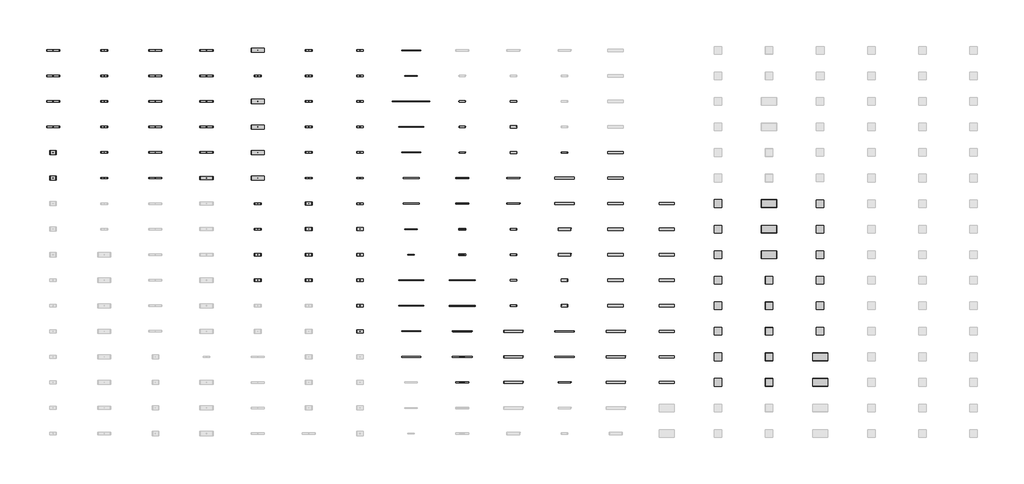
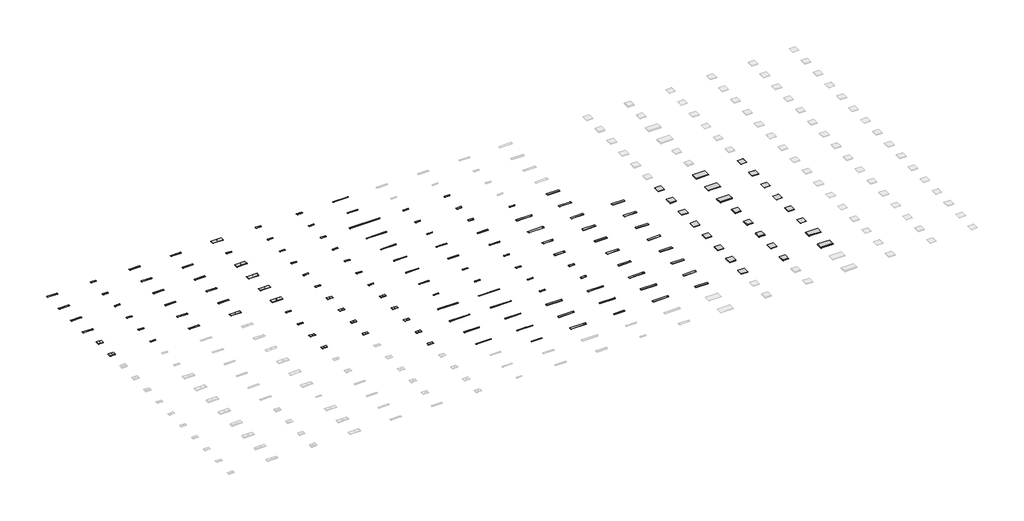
# One storey, part 3 of 7: 145 light fixtures.
"""IFC4 building model written with IfcOpenShell, lengths in millimetres."""

from ifc_helpers import new_model, si_unit, origin, place, context, project, spatial, transform, mapped, element, save
from components import light_fixture_46fbf182, light_fixture_1d3cdff3, light_fixture_ffda42ea, light_fixture_92eabb3a, light_fixture_b87eb1c6, light_fixture_3a14fd99, light_fixture_25df60ce, light_fixture_055937f4, light_fixture_6dc9417a, light_fixture_058cbd19, light_fixture_e95786d1, light_fixture_6ae0b5f7, light_fixture_6470af7a, light_fixture_d8a4bb4c, light_fixture_e2a95042, light_fixture_e242d498, light_fixture_4d4a466d, light_fixture_3a991945, light_fixture_01780e7a, light_fixture_fd2b8f3f, light_fixture_c53e545b, light_fixture_ddc3e724, light_fixture_dffcc7fd, light_fixture_4871c609, light_fixture_8640c246, light_fixture_0b688929, light_fixture_70e44551, light_fixture_14155fe5, light_fixture_35556cd1, light_fixture_69443bf1, light_fixture_fca84b41, light_fixture_4e222f7b, light_fixture_a868d494, light_fixture_98d0d098, light_fixture_7213bc0d, light_fixture_24b21b9c

model = new_model("IFC4")

# Units and contexts
model_context = context("Model", 3, world=origin())
ifc_project = project(units=[si_unit("LENGTHUNIT", "METRE", prefix="MILLI")], contexts=[model_context])

# Site, building, storey
site = spatial("IfcSite", under=ifc_project)
building = spatial("IfcBuilding", under=site)
storey = spatial("IfcBuildingStorey", under=building, Name="Уровень 1", Elevation=0.0)

# Light fixtures
placement = place(None, origin())
light_fixture_shape = light_fixture_46fbf182(model_context)
element("IfcLightFixture", 1, ObjectType="GENILED_Светильник светодиодный_Line Alum Standart : Line Alum Standart 1480x50x50 30Вт Опал", at=placement, inside=storey, context=model_context, shape_type="MappedRepresentation", body=[
    mapped(light_fixture_shape, transform((28000.0, 34000.0, 0.0), x_axis=(1.0, 0.0, 0.0), y_axis=(0.0, 1.0, 0.0), z_axis=(0.0, 0.0, 1.0))),
])
element("IfcLightFixture", 2, ObjectType="GENILED_Светильник светодиодный_Line Alum Standart : Line Alum Standart 1480x50x50 60Вт Опал", at=placement, inside=storey, context=model_context, shape_type="MappedRepresentation", body=[
    mapped(light_fixture_shape, transform((28000.0, 36000.0, 0.0), x_axis=(1.0, 0.0, 0.0), y_axis=(0.0, 1.0, 0.0), z_axis=(0.0, 0.0, 1.0))),
])
light_fixture_2_shape = light_fixture_1d3cdff3(model_context)
element("IfcLightFixture", 3, ObjectType="GENILED_Светильник светодиодный_Line Alum Standart : Line Alum Standart 1960x50x50 40Вт Опал", at=placement, inside=storey, context=model_context, shape_type="MappedRepresentation", body=[
    mapped(light_fixture_2_shape, transform((28000.0, 38000.0, 0.0), x_axis=(1.0, 0.0, 0.0), y_axis=(0.0, 1.0, 0.0), z_axis=(0.0, 0.0, 1.0))),
])
element("IfcLightFixture", 4, ObjectType="GENILED_Светильник светодиодный_Line Alum Standart : Line Alum Standart 1960x50x50 80Вт Опал", at=placement, inside=storey, context=model_context, shape_type="MappedRepresentation", body=[
    mapped(light_fixture_2_shape, transform((28000.0, 40000.0, 0.0), x_axis=(1.0, 0.0, 0.0), y_axis=(0.0, 1.0, 0.0), z_axis=(0.0, 0.0, 1.0))),
])
light_fixture_3_shape = light_fixture_ffda42ea(model_context)
element("IfcLightFixture", 5, ObjectType="GENILED_Светильник светодиодный_Line Alum Super : Line Alum Super 500x50x50 10Вт 90Ra Опал", at=placement, inside=storey, context=model_context, shape_type="MappedRepresentation", body=[
    mapped(light_fixture_3_shape, transform((28000.0, 42000.0, 0.0), x_axis=(1.0, 0.0, 0.0), y_axis=(0.0, 1.0, 0.0), z_axis=(0.0, 0.0, 1.0))),
])
light_fixture_4_shape = light_fixture_92eabb3a(model_context)
element("IfcLightFixture", 6, ObjectType="GENILED_Светильник светодиодный_Line Alum Super : Line Alum Super 980x50x50 20Вт 90Ra Опал", at=placement, inside=storey, context=model_context, shape_type="MappedRepresentation", body=[
    mapped(light_fixture_4_shape, transform((28000.0, 44000.0, 0.0), x_axis=(1.0, 0.0, 0.0), y_axis=(0.0, 1.0, 0.0), z_axis=(0.0, 0.0, 1.0))),
])
light_fixture_5_shape = light_fixture_b87eb1c6(model_context)
element("IfcLightFixture", 7, ObjectType="GENILED_Светильник светодиодный_Line Alum Super : Line Alum Super 1250x50x50 25Вт 90Ra Опал Белый", at=placement, inside=storey, context=model_context, shape_type="MappedRepresentation", body=[
    mapped(light_fixture_5_shape, transform((28000.0, 46000.0, 0.0), x_axis=(1.0, 0.0, 0.0), y_axis=(0.0, 1.0, 0.0), z_axis=(0.0, 0.0, 1.0))),
])
element("IfcLightFixture", 8, ObjectType="GENILED_Светильник светодиодный_Line Alum Super : Line Alum Super 1250x50x50 25Вт 90Ra Опал Черный", at=placement, inside=storey, context=model_context, shape_type="MappedRepresentation", body=[
    mapped(light_fixture_5_shape, transform((28000.0, 48000.0, 0.0), x_axis=(1.0, 0.0, 0.0), y_axis=(0.0, 1.0, 0.0), z_axis=(0.0, 0.0, 1.0))),
])
element("IfcLightFixture", 9, ObjectType="GENILED_Светильник светодиодный_Line Alum Super : Line Alum Super 1480x50x50 30Вт 90Ra Опал", at=placement, inside=storey, context=model_context, shape_type="MappedRepresentation", body=[
    mapped(light_fixture_shape, transform((28000.0, 50000.0, 0.0), x_axis=(1.0, 0.0, 0.0), y_axis=(0.0, 1.0, 0.0), z_axis=(0.0, 0.0, 1.0))),
])
element("IfcLightFixture", 10, ObjectType="GENILED_Светильник светодиодный_Line Alum Super : Line Alum Super 1960x50x50 40Вт 90Ra Опал", at=placement, inside=storey, context=model_context, shape_type="MappedRepresentation", body=[
    mapped(light_fixture_2_shape, transform((28000.0, 52000.0, 0.0), x_axis=(1.0, 0.0, 0.0), y_axis=(0.0, 1.0, 0.0), z_axis=(0.0, 0.0, 1.0))),
])
light_fixture_6_shape = light_fixture_3a14fd99(model_context)
element("IfcLightFixture", 11, ObjectType="GENILED_Светильник светодиодный_Line Alum Super : Line Alum Super 2940x50x50 60Вт 90Ra Опал", at=placement, inside=storey, context=model_context, shape_type="MappedRepresentation", body=[
    mapped(light_fixture_6_shape, transform((28000.0, 54000.0, 0.0), x_axis=(1.0, 0.0, 0.0), y_axis=(0.0, 1.0, 0.0), z_axis=(0.0, 0.0, 1.0))),
])
light_fixture_7_shape = light_fixture_25df60ce(model_context)
element("IfcLightFixture", 12, ObjectType="GENILED_Светильник светодиодный_Line Basic : Line Basic 980x40x50 20Вт Опал", at=placement, inside=storey, context=model_context, shape_type="MappedRepresentation", body=[
    mapped(light_fixture_7_shape, transform((28000.0, 56000.0, 0.0), x_axis=(1.0, 0.0, 0.0), y_axis=(0.0, 1.0, 0.0), z_axis=(0.0, 0.0, 1.0))),
])
light_fixture_8_shape = light_fixture_055937f4(model_context)
element("IfcLightFixture", 13, ObjectType="GENILED_Светильник светодиодный_Line Basic : Line Basic 1472x40x50 30Вт Опал", at=placement, inside=storey, context=model_context, shape_type="MappedRepresentation", body=[
    mapped(light_fixture_8_shape, transform((28000.0, 58000.0, 0.0), x_axis=(1.0, 0.0, 0.0), y_axis=(0.0, 1.0, 0.0), z_axis=(0.0, 0.0, 1.0))),
])
light_fixture_9_shape = light_fixture_6dc9417a(model_context)
element("IfcLightFixture", 14, ObjectType="GENILED_Светильник светодиодный_Retail Basic : Retail Basic 1026x66x25 40Вт Опал", at=placement, inside=storey, context=model_context, shape_type="MappedRepresentation", body=[
    mapped(light_fixture_9_shape, transform((32000.0, 32000.0, 0.0), x_axis=(1.0, 0.0, 0.0), y_axis=(0.0, 1.0, 0.0), z_axis=(0.0, 0.0, 1.0))),
])
light_fixture_10_shape = light_fixture_058cbd19(model_context)
element("IfcLightFixture", 15, ObjectType="GENILED_Светильник светодиодный_Retail Basic : Retail Basic 1516x66x25 30Вт Опал", at=placement, inside=storey, context=model_context, shape_type="MappedRepresentation", body=[
    mapped(light_fixture_10_shape, transform((32000.0, 34000.0, 0.0), x_axis=(1.0, 0.0, 0.0), y_axis=(0.0, 1.0, 0.0), z_axis=(0.0, 0.0, 1.0))),
])
element("IfcLightFixture", 16, ObjectType="GENILED_Светильник светодиодный_Retail Basic : Retail Basic 1516x66x25 60Вт Опал", at=placement, inside=storey, context=model_context, shape_type="MappedRepresentation", body=[
    mapped(light_fixture_10_shape, transform((32000.0, 36000.0, 0.0), x_axis=(1.0, 0.0, 0.0), y_axis=(0.0, 1.0, 0.0), z_axis=(0.0, 0.0, 1.0))),
])
light_fixture_11_shape = light_fixture_e95786d1(model_context)
element("IfcLightFixture", 17, ObjectType="GENILED_Светильник светодиодный_Retail Basic : Retail Basic 2006x66x25 40Вт Опал", at=placement, inside=storey, context=model_context, shape_type="MappedRepresentation", body=[
    mapped(light_fixture_11_shape, transform((32000.0, 38000.0, 0.0), x_axis=(1.0, 0.0, 0.0), y_axis=(0.0, 1.0, 0.0), z_axis=(0.0, 0.0, 1.0))),
])
element("IfcLightFixture", 18, ObjectType="GENILED_Светильник светодиодный_Retail Basic : Retail Basic 2006x66x25 80Вт Опал", at=placement, inside=storey, context=model_context, shape_type="MappedRepresentation", body=[
    mapped(light_fixture_11_shape, transform((32000.0, 40000.0, 0.0), x_axis=(1.0, 0.0, 0.0), y_axis=(0.0, 1.0, 0.0), z_axis=(0.0, 0.0, 1.0))),
])
light_fixture_12_shape = light_fixture_6ae0b5f7(model_context)
element("IfcLightFixture", 19, ObjectType="GENILED_Светильник светодиодный_Retail Standart : Retail Standart 535x105x25 20Вт Опал", at=placement, inside=storey, context=model_context, shape_type="MappedRepresentation", body=[
    mapped(light_fixture_12_shape, transform((32000.0, 42000.0, 0.0), x_axis=(1.0, 0.0, 0.0), y_axis=(0.0, 1.0, 0.0), z_axis=(0.0, 0.0, 1.0))),
])
element("IfcLightFixture", 20, ObjectType="GENILED_Светильник светодиодный_Retail Standart : Retail Standart 535x105x25 30Вт Опал", at=placement, inside=storey, context=model_context, shape_type="MappedRepresentation", body=[
    mapped(light_fixture_12_shape, transform((32000.0, 44000.0, 0.0), x_axis=(1.0, 0.0, 0.0), y_axis=(0.0, 1.0, 0.0), z_axis=(0.0, 0.0, 1.0))),
])
light_fixture_13_shape = light_fixture_6470af7a(model_context)
element("IfcLightFixture", 21, ObjectType="GENILED_Светильник светодиодный_Retail Standart : Retail Standart 1034x105x25 40Вт Опал", at=placement, inside=storey, context=model_context, shape_type="MappedRepresentation", body=[
    mapped(light_fixture_13_shape, transform((32000.0, 46000.0, 0.0), x_axis=(1.0, 0.0, 0.0), y_axis=(0.0, 1.0, 0.0), z_axis=(0.0, 0.0, 1.0))),
])
element("IfcLightFixture", 22, ObjectType="GENILED_Светильник светодиодный_Retail Standart : Retail Standart 1034x105x25 60Вт Опал", at=placement, inside=storey, context=model_context, shape_type="MappedRepresentation", body=[
    mapped(light_fixture_13_shape, transform((32000.0, 48000.0, 0.0), x_axis=(1.0, 0.0, 0.0), y_axis=(0.0, 1.0, 0.0), z_axis=(0.0, 0.0, 1.0))),
])
light_fixture_14_shape = light_fixture_d8a4bb4c(model_context)
element("IfcLightFixture", 23, ObjectType="GENILED_Светильник светодиодный_Titan Advanced : Titan Advanced 500x100x25 20Вт IP66 Опал", at=placement, inside=storey, context=model_context, shape_type="MappedRepresentation", body=[
    mapped(light_fixture_14_shape, transform((32000.0, 50000.0, 0.0), x_axis=(1.0, 0.0, 0.0), y_axis=(0.0, 1.0, 0.0), z_axis=(0.0, 0.0, 1.0))),
])
light_fixture_15_shape = light_fixture_e2a95042(model_context)
element("IfcLightFixture", 24, ObjectType="GENILED_Светильник светодиодный_Titan Advanced : Titan Advanced 500x100x30 20Вт IP66 Матовое закаленное стекло", at=placement, inside=storey, context=model_context, shape_type="MappedRepresentation", body=[
    mapped(light_fixture_15_shape, transform((32000.0, 52000.0, 0.0), x_axis=(1.0, 0.0, 0.0), y_axis=(0.0, 1.0, 0.0), z_axis=(0.0, 0.0, 1.0))),
])
element("IfcLightFixture", 25, ObjectType="GENILED_Светильник светодиодный_Titan Advanced : Titan Advanced 500x100x25 30Вт IP66 Опал", at=placement, inside=storey, context=model_context, shape_type="MappedRepresentation", body=[
    mapped(light_fixture_14_shape, transform((32000.0, 54000.0, 0.0), x_axis=(1.0, 0.0, 0.0), y_axis=(0.0, 1.0, 0.0), z_axis=(0.0, 0.0, 1.0))),
])
light_fixture_16_shape = light_fixture_e242d498(model_context)
element("IfcLightFixture", 26, ObjectType="GENILED_Светильник светодиодный_Titan Advanced : Titan Advanced 1500x180x30 120Вт IP66 Матовое закаленное стекло", at=placement, inside=storey, context=model_context, shape_type="MappedRepresentation", body=[
    mapped(light_fixture_16_shape, transform((36000.0, 32000.0, 0.0), x_axis=(1.0, 0.0, 0.0), y_axis=(0.0, 1.0, 0.0), z_axis=(0.0, 0.0, 1.0))),
])
light_fixture_17_shape = light_fixture_4d4a466d(model_context)
element("IfcLightFixture", 27, ObjectType="GENILED_Светильник светодиодный_Titan Advanced : Titan Advanced 1500x180x25 150Вт IP66 Опал", at=placement, inside=storey, context=model_context, shape_type="MappedRepresentation", body=[
    mapped(light_fixture_17_shape, transform((36000.0, 34000.0, 0.0), x_axis=(1.0, 0.0, 0.0), y_axis=(0.0, 1.0, 0.0), z_axis=(0.0, 0.0, 1.0))),
])
element("IfcLightFixture", 28, ObjectType="GENILED_Светильник светодиодный_Titan Advanced : Titan Advanced 1500x180x30 150Вт IP66 Матовое закаленное стекло", at=placement, inside=storey, context=model_context, shape_type="MappedRepresentation", body=[
    mapped(light_fixture_16_shape, transform((36000.0, 36000.0, 0.0), x_axis=(1.0, 0.0, 0.0), y_axis=(0.0, 1.0, 0.0), z_axis=(0.0, 0.0, 1.0))),
])
element("IfcLightFixture", 29, ObjectType="GENILED_Светильник светодиодный_Titan Basic : Titan Basic 500x100x25 20Вт IP66 Опал", at=placement, inside=storey, context=model_context, shape_type="MappedRepresentation", body=[
    mapped(light_fixture_14_shape, transform((36000.0, 38000.0, 0.0), x_axis=(1.0, 0.0, 0.0), y_axis=(0.0, 1.0, 0.0), z_axis=(0.0, 0.0, 1.0))),
])
element("IfcLightFixture", 30, ObjectType="GENILED_Светильник светодиодный_Titan Basic : Titan Basic 500x100x30 20Вт IP66 Матовое закаленное стекло", at=placement, inside=storey, context=model_context, shape_type="MappedRepresentation", body=[
    mapped(light_fixture_15_shape, transform((36000.0, 40000.0, 0.0), x_axis=(1.0, 0.0, 0.0), y_axis=(0.0, 1.0, 0.0), z_axis=(0.0, 0.0, 1.0))),
])
element("IfcLightFixture", 31, ObjectType="GENILED_Светильник светодиодный_Titan Basic : Titan Basic 500x100x25 30Вт IP66 Опал", at=placement, inside=storey, context=model_context, shape_type="MappedRepresentation", body=[
    mapped(light_fixture_14_shape, transform((36000.0, 42000.0, 0.0), x_axis=(1.0, 0.0, 0.0), y_axis=(0.0, 1.0, 0.0), z_axis=(0.0, 0.0, 1.0))),
])
element("IfcLightFixture", 32, ObjectType="GENILED_Светильник светодиодный_Titan Basic : Titan Basic 500x100x30 30Вт IP66 Матовое закаленное стекло", at=placement, inside=storey, context=model_context, shape_type="MappedRepresentation", body=[
    mapped(light_fixture_15_shape, transform((36000.0, 44000.0, 0.0), x_axis=(1.0, 0.0, 0.0), y_axis=(0.0, 1.0, 0.0), z_axis=(0.0, 0.0, 1.0))),
])
light_fixture_18_shape = light_fixture_3a991945(model_context)
element("IfcLightFixture", 33, ObjectType="GENILED_Светильник светодиодный_Titan Basic : Titan Basic 1000x100x25 40Вт IP66 Опал", at=placement, inside=storey, context=model_context, shape_type="MappedRepresentation", body=[
    mapped(light_fixture_18_shape, transform((36000.0, 46000.0, 0.0), x_axis=(1.0, 0.0, 0.0), y_axis=(0.0, 1.0, 0.0), z_axis=(0.0, 0.0, 1.0))),
])
light_fixture_19_shape = light_fixture_01780e7a(model_context)
element("IfcLightFixture", 34, ObjectType="GENILED_Светильник светодиодный_Titan Basic : Titan Basic 1000x100x30 40Вт IP66 Матовое закаленное стекло", at=placement, inside=storey, context=model_context, shape_type="MappedRepresentation", body=[
    mapped(light_fixture_19_shape, transform((36000.0, 48000.0, 0.0), x_axis=(1.0, 0.0, 0.0), y_axis=(0.0, 1.0, 0.0), z_axis=(0.0, 0.0, 1.0))),
])
light_fixture_20_shape = light_fixture_fd2b8f3f(model_context)
element("IfcLightFixture", 35, ObjectType="GENILED_Светильник светодиодный_Titan Basic : Titan Basic 500x180x25 40Вт IP66 Опал", at=placement, inside=storey, context=model_context, shape_type="MappedRepresentation", body=[
    mapped(light_fixture_20_shape, transform((36000.0, 50000.0, 0.0), x_axis=(1.0, 0.0, 0.0), y_axis=(0.0, 1.0, 0.0), z_axis=(0.0, 0.0, 1.0))),
])
light_fixture_21_shape = light_fixture_c53e545b(model_context)
element("IfcLightFixture", 36, ObjectType="GENILED_Светильник светодиодный_Titan Basic : Titan Basic 500x180x30 40Вт IP66 Матовое закаленное стекло", at=placement, inside=storey, context=model_context, shape_type="MappedRepresentation", body=[
    mapped(light_fixture_21_shape, transform((36000.0, 52000.0, 0.0), x_axis=(1.0, 0.0, 0.0), y_axis=(0.0, 1.0, 0.0), z_axis=(0.0, 0.0, 1.0))),
])
element("IfcLightFixture", 37, ObjectType="GENILED_Светильник светодиодный_Titan Inox Advanced : Titan Inox Advanced 500x100x30 20Вт IP66 Матовое закаленное стекло", at=placement, inside=storey, context=model_context, shape_type="MappedRepresentation", body=[
    mapped(light_fixture_15_shape, transform((36000.0, 54000.0, 0.0), x_axis=(1.0, 0.0, 0.0), y_axis=(0.0, 1.0, 0.0), z_axis=(0.0, 0.0, 1.0))),
])
element("IfcLightFixture", 38, ObjectType="GENILED_Светильник светодиодный_Titan Inox Standart : Titan Inox Standart 1000х100х30 60Вт IP66 Матовое закаленное стекло", at=placement, inside=storey, context=model_context, shape_type="MappedRepresentation", body=[
    mapped(light_fixture_19_shape, transform((40000.0, 32000.0, 0.0), x_axis=(1.0, 0.0, 0.0), y_axis=(0.0, 1.0, 0.0), z_axis=(0.0, 0.0, 1.0))),
])
light_fixture_22_shape = light_fixture_ddc3e724(model_context)
element("IfcLightFixture", 39, ObjectType="GENILED_Светильник светодиодный_Titan Inox Standart : Titan Inox Standart 1500х100х30 60Вт IP66 Матовое закаленное стекло", at=placement, inside=storey, context=model_context, shape_type="MappedRepresentation", body=[
    mapped(light_fixture_22_shape, transform((40000.0, 34000.0, 0.0), x_axis=(1.0, 0.0, 0.0), y_axis=(0.0, 1.0, 0.0), z_axis=(0.0, 0.0, 1.0))),
])
element("IfcLightFixture", 40, ObjectType="GENILED_Светильник светодиодный_Titan Inox Standart : Titan Inox Standart 1500х100х30 90Вт IP66 Матовое закаленное стекло", at=placement, inside=storey, context=model_context, shape_type="MappedRepresentation", body=[
    mapped(light_fixture_22_shape, transform((40000.0, 36000.0, 0.0), x_axis=(1.0, 0.0, 0.0), y_axis=(0.0, 1.0, 0.0), z_axis=(0.0, 0.0, 1.0))),
])
element("IfcLightFixture", 41, ObjectType="GENILED_Светильник светодиодный_Titan Inox Standart : Titan Inox Standart 500х180х30 40Вт IP66 Матовое закаленное стекло", at=placement, inside=storey, context=model_context, shape_type="MappedRepresentation", body=[
    mapped(light_fixture_21_shape, transform((40000.0, 38000.0, 0.0), x_axis=(1.0, 0.0, 0.0), y_axis=(0.0, 1.0, 0.0), z_axis=(0.0, 0.0, 1.0))),
])
element("IfcLightFixture", 42, ObjectType="GENILED_Светильник светодиодный_Titan Inox Standart : Titan Inox Standart 500х180х30 50Вт IP66 Матовое закаленное стекло", at=placement, inside=storey, context=model_context, shape_type="MappedRepresentation", body=[
    mapped(light_fixture_21_shape, transform((40000.0, 40000.0, 0.0), x_axis=(1.0, 0.0, 0.0), y_axis=(0.0, 1.0, 0.0), z_axis=(0.0, 0.0, 1.0))),
])
light_fixture_23_shape = light_fixture_dffcc7fd(model_context)
element("IfcLightFixture", 43, ObjectType="GENILED_Светильник светодиодный_Titan Inox Standart : Titan Inox Standart 1000х180х30 80Вт IP66 Прозрачное закаленное стекло", at=placement, inside=storey, context=model_context, shape_type="MappedRepresentation", body=[
    mapped(light_fixture_23_shape, transform((40000.0, 42000.0, 0.0), x_axis=(1.0, 0.0, 0.0), y_axis=(0.0, 1.0, 0.0), z_axis=(0.0, 0.0, 1.0))),
])
element("IfcLightFixture", 44, ObjectType="GENILED_Светильник светодиодный_Titan Inox Standart : Titan Inox Standart 1000х180х30 100Вт IP66 Матовое закаленное стекло", at=placement, inside=storey, context=model_context, shape_type="MappedRepresentation", body=[
    mapped(light_fixture_23_shape, transform((40000.0, 44000.0, 0.0), x_axis=(1.0, 0.0, 0.0), y_axis=(0.0, 1.0, 0.0), z_axis=(0.0, 0.0, 1.0))),
])
element("IfcLightFixture", 45, ObjectType="GENILED_Светильник светодиодный_Titan Inox Standart : Titan Inox Standart 1500х180х30 120Вт IP66 Матовое закаленное стекло", at=placement, inside=storey, context=model_context, shape_type="MappedRepresentation", body=[
    mapped(light_fixture_16_shape, transform((40000.0, 46000.0, 0.0), x_axis=(1.0, 0.0, 0.0), y_axis=(0.0, 1.0, 0.0), z_axis=(0.0, 0.0, 1.0))),
])
element("IfcLightFixture", 46, ObjectType="GENILED_Светильник светодиодный_Titan Inox Standart : Titan Inox Standart 1500х180х30 150Вт IP66 Матовое закаленное стекло", at=placement, inside=storey, context=model_context, shape_type="MappedRepresentation", body=[
    mapped(light_fixture_16_shape, transform((40000.0, 48000.0, 0.0), x_axis=(1.0, 0.0, 0.0), y_axis=(0.0, 1.0, 0.0), z_axis=(0.0, 0.0, 1.0))),
])
element("IfcLightFixture", 47, ObjectType="GENILED_Светильник светодиодный_Titan Standart : Titan Standart 500x100x25 20Вт IP66 Опал", at=placement, inside=storey, context=model_context, shape_type="MappedRepresentation", body=[
    mapped(light_fixture_14_shape, transform((40000.0, 50000.0, 0.0), x_axis=(1.0, 0.0, 0.0), y_axis=(0.0, 1.0, 0.0), z_axis=(0.0, 0.0, 1.0))),
])
element("IfcLightFixture", 48, ObjectType="GENILED_Светильник светодиодный_Titan Standart : Titan Standart 1500x180x30 120Вт IP66 Матовое закаленное стекло", at=placement, inside=storey, context=model_context, shape_type="MappedRepresentation", body=[
    mapped(light_fixture_16_shape, transform((44000.0, 32000.0, 0.0), x_axis=(1.0, 0.0, 0.0), y_axis=(0.0, 1.0, 0.0), z_axis=(0.0, 0.0, 1.0))),
])
element("IfcLightFixture", 49, ObjectType="GENILED_Светильник светодиодный_Titan Standart : Titan Standart 1500x180x25 150Вт IP66 Опал", at=placement, inside=storey, context=model_context, shape_type="MappedRepresentation", body=[
    mapped(light_fixture_17_shape, transform((44000.0, 34000.0, 0.0), x_axis=(1.0, 0.0, 0.0), y_axis=(0.0, 1.0, 0.0), z_axis=(0.0, 0.0, 1.0))),
])
element("IfcLightFixture", 50, ObjectType="GENILED_Светильник светодиодный_Titan Standart : Titan Standart 1500x180x30 150Вт IP66 Матовое закаленное стекло", at=placement, inside=storey, context=model_context, shape_type="MappedRepresentation", body=[
    mapped(light_fixture_16_shape, transform((44000.0, 36000.0, 0.0), x_axis=(1.0, 0.0, 0.0), y_axis=(0.0, 1.0, 0.0), z_axis=(0.0, 0.0, 1.0))),
])
light_fixture_24_shape = light_fixture_4871c609(model_context)
element("IfcLightFixture", 51, ObjectType="GENILED_Светильник светодиодный_ЛПО Basic : ЛПО Basic 1200x178x20 40Вт Опал", at=placement, inside=storey, context=model_context, shape_type="MappedRepresentation", body=[
    mapped(light_fixture_24_shape, transform((44000.0, 38000.0, 0.0), x_axis=(1.0, 0.0, 0.0), y_axis=(0.0, 1.0, 0.0), z_axis=(0.0, 0.0, 1.0))),
])
element("IfcLightFixture", 52, ObjectType="GENILED_Светильник светодиодный_ЛПО Basic : ЛПО Basic 1200x178x20 40Вт Ra90 Опал", at=placement, inside=storey, context=model_context, shape_type="MappedRepresentation", body=[
    mapped(light_fixture_24_shape, transform((44000.0, 40000.0, 0.0), x_axis=(1.0, 0.0, 0.0), y_axis=(0.0, 1.0, 0.0), z_axis=(0.0, 0.0, 1.0))),
])
light_fixture_25_shape = light_fixture_8640c246(model_context)
element("IfcLightFixture", 53, ObjectType="GENILED_Светильник светодиодный_ЛПО Comfort : ЛПО Comfort 1200x180x60 45Вт Ra90 IP54 Опал", at=placement, inside=storey, context=model_context, shape_type="MappedRepresentation", body=[
    mapped(light_fixture_25_shape, transform((44000.0, 42000.0, 0.0), x_axis=(1.0, 0.0, 0.0), y_axis=(0.0, 1.0, 0.0), z_axis=(0.0, 0.0, 1.0))),
])
element("IfcLightFixture", 54, ObjectType="GENILED_Светильник светодиодный_ЛПО Comfort : ЛПО Comfort 1200x180x60 60Вт Ra90 IP54 Опал", at=placement, inside=storey, context=model_context, shape_type="MappedRepresentation", body=[
    mapped(light_fixture_25_shape, transform((44000.0, 44000.0, 0.0), x_axis=(1.0, 0.0, 0.0), y_axis=(0.0, 1.0, 0.0), z_axis=(0.0, 0.0, 1.0))),
])
element("IfcLightFixture", 55, ObjectType="GENILED_Светильник светодиодный_ЛПО Низковольтный : ЛПО 1200x180x20 40Вт 12В Опал", at=placement, inside=storey, context=model_context, shape_type="MappedRepresentation", body=[
    mapped(light_fixture_24_shape, transform((44000.0, 46000.0, 0.0), x_axis=(1.0, 0.0, 0.0), y_axis=(0.0, 1.0, 0.0), z_axis=(0.0, 0.0, 1.0))),
])
element("IfcLightFixture", 56, ObjectType="GENILED_Светильник светодиодный_ЛПО Низковольтный : ЛПО 1200x180x20 40Вт 24В Опал", at=placement, inside=storey, context=model_context, shape_type="MappedRepresentation", body=[
    mapped(light_fixture_24_shape, transform((44000.0, 48000.0, 0.0), x_axis=(1.0, 0.0, 0.0), y_axis=(0.0, 1.0, 0.0), z_axis=(0.0, 0.0, 1.0))),
])
element("IfcLightFixture", 57, ObjectType="GENILED_Светильник светодиодный_ЛПО Низковольтный : ЛПО 1200x180x20 50Вт 12В Опал", at=placement, inside=storey, context=model_context, shape_type="MappedRepresentation", body=[
    mapped(light_fixture_24_shape, transform((44000.0, 50000.0, 0.0), x_axis=(1.0, 0.0, 0.0), y_axis=(0.0, 1.0, 0.0), z_axis=(0.0, 0.0, 1.0))),
])
light_fixture_26_shape = light_fixture_0b688929(model_context)
element("IfcLightFixture", 58, ObjectType="GENILED_Светильник светодиодный_ЛПО Низковольтный : ЛПО 1200x180x45 40Вт 24В IP54 Опал", at=placement, inside=storey, context=model_context, shape_type="MappedRepresentation", body=[
    mapped(light_fixture_26_shape, transform((48000.0, 32000.0, 0.0), x_axis=(1.0, 0.0, 0.0), y_axis=(0.0, 1.0, 0.0), z_axis=(0.0, 0.0, 1.0))),
])
element("IfcLightFixture", 59, ObjectType="GENILED_Светильник светодиодный_ЛПО Низковольтный : ЛПО 1200x180x45 40Вт 12В IP54 Опал", at=placement, inside=storey, context=model_context, shape_type="MappedRepresentation", body=[
    mapped(light_fixture_26_shape, transform((48000.0, 34000.0, 0.0), x_axis=(1.0, 0.0, 0.0), y_axis=(0.0, 1.0, 0.0), z_axis=(0.0, 0.0, 1.0))),
])
element("IfcLightFixture", 60, ObjectType="GENILED_Светильник светодиодный_ЛПО Низковольтный : ЛПО 1200x180x45 50Вт 12В IP54 Опал", at=placement, inside=storey, context=model_context, shape_type="MappedRepresentation", body=[
    mapped(light_fixture_26_shape, transform((48000.0, 36000.0, 0.0), x_axis=(1.0, 0.0, 0.0), y_axis=(0.0, 1.0, 0.0), z_axis=(0.0, 0.0, 1.0))),
])
element("IfcLightFixture", 61, ObjectType="GENILED_Светильник светодиодный_ЛПО Низковольтный : ЛПО 1200x180x45 60Вт 24В IP54 Опал", at=placement, inside=storey, context=model_context, shape_type="MappedRepresentation", body=[
    mapped(light_fixture_26_shape, transform((48000.0, 38000.0, 0.0), x_axis=(1.0, 0.0, 0.0), y_axis=(0.0, 1.0, 0.0), z_axis=(0.0, 0.0, 1.0))),
])
element("IfcLightFixture", 62, ObjectType="GENILED_Светильник светодиодный_ЛПО Низковольтный : ЛПО 1200x180x45 60Вт 36В IP54 Опал", at=placement, inside=storey, context=model_context, shape_type="MappedRepresentation", body=[
    mapped(light_fixture_26_shape, transform((48000.0, 40000.0, 0.0), x_axis=(1.0, 0.0, 0.0), y_axis=(0.0, 1.0, 0.0), z_axis=(0.0, 0.0, 1.0))),
])
element("IfcLightFixture", 63, ObjectType="GENILED_Светильник светодиодный_ЛПО Низковольтный : ЛПО 1200x180x45 60Вт 12В IP54 Опал", at=placement, inside=storey, context=model_context, shape_type="MappedRepresentation", body=[
    mapped(light_fixture_26_shape, transform((48000.0, 42000.0, 0.0), x_axis=(1.0, 0.0, 0.0), y_axis=(0.0, 1.0, 0.0), z_axis=(0.0, 0.0, 1.0))),
])
element("IfcLightFixture", 64, ObjectType="GENILED_Светильник светодиодный_ЛПО Низковольтный : ЛПО 1200x180x45 80Вт 24В IP54 Опал", at=placement, inside=storey, context=model_context, shape_type="MappedRepresentation", body=[
    mapped(light_fixture_26_shape, transform((48000.0, 44000.0, 0.0), x_axis=(1.0, 0.0, 0.0), y_axis=(0.0, 1.0, 0.0), z_axis=(0.0, 0.0, 1.0))),
])
element("IfcLightFixture", 65, ObjectType="GENILED_Светильник светодиодный_ЛПО Низковольтный : ЛПО 1200x180x45 80Вт 12В IP54 Опал", at=placement, inside=storey, context=model_context, shape_type="MappedRepresentation", body=[
    mapped(light_fixture_26_shape, transform((48000.0, 46000.0, 0.0), x_axis=(1.0, 0.0, 0.0), y_axis=(0.0, 1.0, 0.0), z_axis=(0.0, 0.0, 1.0))),
])
light_fixture_27_shape = light_fixture_70e44551(model_context)
element("IfcLightFixture", 66, ObjectType="GENILED_Светильник светодиодный_Office Clip-In Comfort : Office Clip-In Comfort 600x600x60 45Вт Матовое закаленное стекло", at=placement, inside=storey, context=model_context, shape_type="MappedRepresentation", body=[
    mapped(light_fixture_27_shape, transform((52000.0, 32000.0, 0.0), x_axis=(1.0, 0.0, 0.0), y_axis=(0.0, 1.0, 0.0), z_axis=(0.0, 0.0, 1.0))),
])
element("IfcLightFixture", 67, ObjectType="GENILED_Светильник светодиодный_Office Clip-In Comfort : Office Clip-In Comfort 600x600x60 45Вт IP54 Матовое закаленное стекло", at=placement, inside=storey, context=model_context, shape_type="MappedRepresentation", body=[
    mapped(light_fixture_27_shape, transform((52000.0, 34000.0, 0.0), x_axis=(1.0, 0.0, 0.0), y_axis=(0.0, 1.0, 0.0), z_axis=(0.0, 0.0, 1.0))),
])
element("IfcLightFixture", 68, ObjectType="GENILED_Светильник светодиодный_Office Clip-In Comfort : Office Clip-In Comfort 600x600x60 45Вт 90Ra IP54 Опал", at=placement, inside=storey, context=model_context, shape_type="MappedRepresentation", body=[
    mapped(light_fixture_27_shape, transform((52000.0, 36000.0, 0.0), x_axis=(1.0, 0.0, 0.0), y_axis=(0.0, 1.0, 0.0), z_axis=(0.0, 0.0, 1.0))),
])
element("IfcLightFixture", 69, ObjectType="GENILED_Светильник светодиодный_Office Clip-In Comfort : Office Clip-In Comfort 600x600x60 60Вт Матовое закаленное стекло", at=placement, inside=storey, context=model_context, shape_type="MappedRepresentation", body=[
    mapped(light_fixture_27_shape, transform((52000.0, 38000.0, 0.0), x_axis=(1.0, 0.0, 0.0), y_axis=(0.0, 1.0, 0.0), z_axis=(0.0, 0.0, 1.0))),
])
element("IfcLightFixture", 70, ObjectType="GENILED_Светильник светодиодный_Office Clip-In Comfort : Office Clip-In Comfort 600x600x60 60Вт IP54 Матовое закаленное стекло", at=placement, inside=storey, context=model_context, shape_type="MappedRepresentation", body=[
    mapped(light_fixture_27_shape, transform((52000.0, 40000.0, 0.0), x_axis=(1.0, 0.0, 0.0), y_axis=(0.0, 1.0, 0.0), z_axis=(0.0, 0.0, 1.0))),
])
element("IfcLightFixture", 71, ObjectType="GENILED_Светильник светодиодный_Office Clip-In Standart : Office Clip-In Standart 600x600x60 30Вт IP54 Матовое закаленное стекло", at=placement, inside=storey, context=model_context, shape_type="MappedRepresentation", body=[
    mapped(light_fixture_27_shape, transform((52000.0, 42000.0, 0.0), x_axis=(1.0, 0.0, 0.0), y_axis=(0.0, 1.0, 0.0), z_axis=(0.0, 0.0, 1.0))),
])
element("IfcLightFixture", 72, ObjectType="GENILED_Светильник светодиодный_Office Clip-In Standart : Office Clip-In Standart 600x600x60 40Вт IP54 Матовое закаленное стекло", at=placement, inside=storey, context=model_context, shape_type="MappedRepresentation", body=[
    mapped(light_fixture_27_shape, transform((52000.0, 44000.0, 0.0), x_axis=(1.0, 0.0, 0.0), y_axis=(0.0, 1.0, 0.0), z_axis=(0.0, 0.0, 1.0))),
])
element("IfcLightFixture", 73, ObjectType="GENILED_Светильник светодиодный_Office Clip-In Standart : Office Clip-In Standart 600x600x60 50Вт IP54 Матовое закаленное стекло", at=placement, inside=storey, context=model_context, shape_type="MappedRepresentation", body=[
    mapped(light_fixture_27_shape, transform((52000.0, 46000.0, 0.0), x_axis=(1.0, 0.0, 0.0), y_axis=(0.0, 1.0, 0.0), z_axis=(0.0, 0.0, 1.0))),
])
light_fixture_28_shape = light_fixture_14155fe5(model_context)
element("IfcLightFixture", 74, ObjectType="GENILED_Светильник светодиодный_Rockfon Advanced : Office Rockfon Advanced 600x600x70 40Вт Матовое закаленное стекло", at=placement, inside=storey, context=model_context, shape_type="MappedRepresentation", body=[
    mapped(light_fixture_28_shape, transform((56000.0, 32000.0, 0.0), x_axis=(1.0, 0.0, 0.0), y_axis=(0.0, 1.0, 0.0), z_axis=(0.0, 0.0, 1.0))),
])
element("IfcLightFixture", 75, ObjectType="GENILED_Светильник светодиодный_Rockfon Advanced : Office Rockfon Advanced 600x600x70 50Вт Матовое закаленное стекло", at=placement, inside=storey, context=model_context, shape_type="MappedRepresentation", body=[
    mapped(light_fixture_28_shape, transform((56000.0, 34000.0, 0.0), x_axis=(1.0, 0.0, 0.0), y_axis=(0.0, 1.0, 0.0), z_axis=(0.0, 0.0, 1.0))),
])
element("IfcLightFixture", 76, ObjectType="GENILED_Светильник светодиодный_Rockfon Advanced : Office Rockfon Advanced 600x600x70 60Вт Матовое закаленное стекло", at=placement, inside=storey, context=model_context, shape_type="MappedRepresentation", body=[
    mapped(light_fixture_28_shape, transform((56000.0, 36000.0, 0.0), x_axis=(1.0, 0.0, 0.0), y_axis=(0.0, 1.0, 0.0), z_axis=(0.0, 0.0, 1.0))),
])
element("IfcLightFixture", 77, ObjectType="GENILED_Светильник светодиодный_Rockfon Advanced : Office Rockfon Advanced 600x600x70 80Вт Матовое закаленное стекло", at=placement, inside=storey, context=model_context, shape_type="MappedRepresentation", body=[
    mapped(light_fixture_28_shape, transform((56000.0, 38000.0, 0.0), x_axis=(1.0, 0.0, 0.0), y_axis=(0.0, 1.0, 0.0), z_axis=(0.0, 0.0, 1.0))),
])
element("IfcLightFixture", 78, ObjectType="GENILED_Светильник светодиодный_Rockfon Advanced : Office Rockfon Advanced 600x600x70 100Вт Матовое закаленное стекло", at=placement, inside=storey, context=model_context, shape_type="MappedRepresentation", body=[
    mapped(light_fixture_28_shape, transform((56000.0, 40000.0, 0.0), x_axis=(1.0, 0.0, 0.0), y_axis=(0.0, 1.0, 0.0), z_axis=(0.0, 0.0, 1.0))),
])
light_fixture_29_shape = light_fixture_35556cd1(model_context)
element("IfcLightFixture", 79, ObjectType="GENILED_Светильник светодиодный_Rockfon Advanced : Office Rockfon Advanced 1200x600x70 60Вт Опал", at=placement, inside=storey, context=model_context, shape_type="MappedRepresentation", body=[
    mapped(light_fixture_29_shape, transform((56000.0, 42000.0, 0.0), x_axis=(1.0, 0.0, 0.0), y_axis=(0.0, 1.0, 0.0), z_axis=(0.0, 0.0, 1.0))),
])
element("IfcLightFixture", 80, ObjectType="GENILED_Светильник светодиодный_Rockfon Advanced : Office Rockfon Advanced 1200x600x70 80Вт Опал", at=placement, inside=storey, context=model_context, shape_type="MappedRepresentation", body=[
    mapped(light_fixture_29_shape, transform((56000.0, 44000.0, 0.0), x_axis=(1.0, 0.0, 0.0), y_axis=(0.0, 1.0, 0.0), z_axis=(0.0, 0.0, 1.0))),
])
element("IfcLightFixture", 81, ObjectType="GENILED_Светильник светодиодный_Rockfon Advanced : Office Rockfon Advanced 1200x600x70 120Вт Опал", at=placement, inside=storey, context=model_context, shape_type="MappedRepresentation", body=[
    mapped(light_fixture_29_shape, transform((56000.0, 46000.0, 0.0), x_axis=(1.0, 0.0, 0.0), y_axis=(0.0, 1.0, 0.0), z_axis=(0.0, 0.0, 1.0))),
])
element("IfcLightFixture", 82, ObjectType="GENILED_Светильник светодиодный_Rockfon Standart : Office Rockfon Standart 1200x600x70 100Вт 90Ra Опал", at=placement, inside=storey, context=model_context, shape_type="MappedRepresentation", body=[
    mapped(light_fixture_29_shape, transform((60000.0, 32000.0, 0.0), x_axis=(1.0, 0.0, 0.0), y_axis=(0.0, 1.0, 0.0), z_axis=(0.0, 0.0, 1.0))),
])
element("IfcLightFixture", 83, ObjectType="GENILED_Светильник светодиодный_Rockfon Standart : Office Rockfon Standart 1200x600x70 120Вт 90Ra Опал", at=placement, inside=storey, context=model_context, shape_type="MappedRepresentation", body=[
    mapped(light_fixture_29_shape, transform((60000.0, 34000.0, 0.0), x_axis=(1.0, 0.0, 0.0), y_axis=(0.0, 1.0, 0.0), z_axis=(0.0, 0.0, 1.0))),
])
light_fixture_30_shape = light_fixture_69443bf1(model_context)
element("IfcLightFixture", 84, ObjectType="GENILED_Светильник светодиодный_Грильято Advanced : Грильято Advanced 588x588x20 30Вт Опал", at=placement, inside=storey, context=model_context, shape_type="MappedRepresentation", body=[
    mapped(light_fixture_30_shape, transform((60000.0, 36000.0, 0.0), x_axis=(1.0, 0.0, 0.0), y_axis=(0.0, 1.0, 0.0), z_axis=(0.0, 0.0, 1.0))),
])
element("IfcLightFixture", 85, ObjectType="GENILED_Светильник светодиодный_Грильято Advanced : Грильято Advanced 588x588x20 40Вт Опал", at=placement, inside=storey, context=model_context, shape_type="MappedRepresentation", body=[
    mapped(light_fixture_30_shape, transform((60000.0, 38000.0, 0.0), x_axis=(1.0, 0.0, 0.0), y_axis=(0.0, 1.0, 0.0), z_axis=(0.0, 0.0, 1.0))),
])
element("IfcLightFixture", 86, ObjectType="GENILED_Светильник светодиодный_Грильято Advanced : Грильято Advanced 588x588x20 50Вт Опал", at=placement, inside=storey, context=model_context, shape_type="MappedRepresentation", body=[
    mapped(light_fixture_30_shape, transform((60000.0, 40000.0, 0.0), x_axis=(1.0, 0.0, 0.0), y_axis=(0.0, 1.0, 0.0), z_axis=(0.0, 0.0, 1.0))),
])
element("IfcLightFixture", 87, ObjectType="GENILED_Светильник светодиодный_Грильято Standart : Грильято Standart 588x588x20 30Вт Опал", at=placement, inside=storey, context=model_context, shape_type="MappedRepresentation", body=[
    mapped(light_fixture_30_shape, transform((60000.0, 42000.0, 0.0), x_axis=(1.0, 0.0, 0.0), y_axis=(0.0, 1.0, 0.0), z_axis=(0.0, 0.0, 1.0))),
])
element("IfcLightFixture", 88, ObjectType="GENILED_Светильник светодиодный_Грильято Standart : Грильято Standart 588x588x20 40Вт Опал", at=placement, inside=storey, context=model_context, shape_type="MappedRepresentation", body=[
    mapped(light_fixture_30_shape, transform((60000.0, 44000.0, 0.0), x_axis=(1.0, 0.0, 0.0), y_axis=(0.0, 1.0, 0.0), z_axis=(0.0, 0.0, 1.0))),
])
element("IfcLightFixture", 89, ObjectType="GENILED_Светильник светодиодный_Грильято Standart : Грильято Standart 588x588x20 50Вт Опал", at=placement, inside=storey, context=model_context, shape_type="MappedRepresentation", body=[
    mapped(light_fixture_30_shape, transform((60000.0, 46000.0, 0.0), x_axis=(1.0, 0.0, 0.0), y_axis=(0.0, 1.0, 0.0), z_axis=(0.0, 0.0, 1.0))),
])
light_fixture_31_shape = light_fixture_fca84b41(model_context)
element("IfcLightFixture", 90, ObjectType="GENILED_Светильник светодиодный_Element Advanced : Element Advanced 0,5x3 210Вт Матовое закаленное стекло", at=placement, inside=storey, context=model_context, shape_type="MappedRepresentation", body=[
    mapped(light_fixture_31_shape, transform((0.0, 48000.0, 0.0), x_axis=(1.0, 0.0, 0.0), y_axis=(0.0, 1.0, 0.0), z_axis=(0.0, 0.0, 1.0))),
])
element("IfcLightFixture", 91, ObjectType="GENILED_Светильник светодиодный_Element Advanced : Element Advanced 0,5x3 210Вт Линза Ш2", at=placement, inside=storey, context=model_context, shape_type="MappedRepresentation", body=[
    mapped(light_fixture_31_shape, transform((0.0, 50000.0, 0.0), x_axis=(1.0, 0.0, 0.0), y_axis=(0.0, 1.0, 0.0), z_axis=(0.0, 0.0, 1.0))),
])
light_fixture_32_shape = light_fixture_4e222f7b(model_context)
element("IfcLightFixture", 92, ObjectType="GENILED_Светильник светодиодный_Element Advanced : Element Advanced 1,0x1 40Вт Матовое закаленное стекло", at=placement, inside=storey, context=model_context, shape_type="MappedRepresentation", body=[
    mapped(light_fixture_32_shape, transform((0.0, 52000.0, 0.0), x_axis=(1.0, 0.0, 0.0), y_axis=(0.0, 1.0, 0.0), z_axis=(0.0, 0.0, 1.0))),
])
element("IfcLightFixture", 93, ObjectType="GENILED_Светильник светодиодный_Element Advanced : Element Advanced 1,0x1 40Вт Линза Ш2", at=placement, inside=storey, context=model_context, shape_type="MappedRepresentation", body=[
    mapped(light_fixture_32_shape, transform((0.0, 54000.0, 0.0), x_axis=(1.0, 0.0, 0.0), y_axis=(0.0, 1.0, 0.0), z_axis=(0.0, 0.0, 1.0))),
])
element("IfcLightFixture", 94, ObjectType="GENILED_Светильник светодиодный_Element Advanced : Element Advanced 1,0x1 60Вт Матовое закаленное стекло", at=placement, inside=storey, context=model_context, shape_type="MappedRepresentation", body=[
    mapped(light_fixture_32_shape, transform((0.0, 56000.0, 0.0), x_axis=(1.0, 0.0, 0.0), y_axis=(0.0, 1.0, 0.0), z_axis=(0.0, 0.0, 1.0))),
])
element("IfcLightFixture", 95, ObjectType="GENILED_Светильник светодиодный_Element Advanced : Element Advanced 1,0x1 60Вт Линза Ш2", at=placement, inside=storey, context=model_context, shape_type="MappedRepresentation", body=[
    mapped(light_fixture_32_shape, transform((0.0, 58000.0, 0.0), x_axis=(1.0, 0.0, 0.0), y_axis=(0.0, 1.0, 0.0), z_axis=(0.0, 0.0, 1.0))),
])
light_fixture_33_shape = light_fixture_a868d494(model_context)
element("IfcLightFixture", 96, ObjectType="GENILED_Светильник светодиодный_Element Standart : Element Standart 0,5x1 30Вт Матовое закаленное стекло", at=placement, inside=storey, context=model_context, shape_type="MappedRepresentation", body=[
    mapped(light_fixture_33_shape, transform((4000.0, 48000.0, 0.0), x_axis=(1.0, 0.0, 0.0), y_axis=(0.0, 1.0, 0.0), z_axis=(0.0, 0.0, 1.0))),
])
element("IfcLightFixture", 97, ObjectType="GENILED_Светильник светодиодный_Element Standart : Element Standart 0,5x1 30Вт Линза Ш2", at=placement, inside=storey, context=model_context, shape_type="MappedRepresentation", body=[
    mapped(light_fixture_33_shape, transform((4000.0, 50000.0, 0.0), x_axis=(1.0, 0.0, 0.0), y_axis=(0.0, 1.0, 0.0), z_axis=(0.0, 0.0, 1.0))),
])
element("IfcLightFixture", 98, ObjectType="GENILED_Светильник светодиодный_Element Standart : Element Standart 0,5x1 40Вт Матовое закаленное стекло", at=placement, inside=storey, context=model_context, shape_type="MappedRepresentation", body=[
    mapped(light_fixture_33_shape, transform((4000.0, 52000.0, 0.0), x_axis=(1.0, 0.0, 0.0), y_axis=(0.0, 1.0, 0.0), z_axis=(0.0, 0.0, 1.0))),
])
element("IfcLightFixture", 99, ObjectType="GENILED_Светильник светодиодный_Element Standart : Element Standart 0,5x1 40Вт Линза Ш2", at=placement, inside=storey, context=model_context, shape_type="MappedRepresentation", body=[
    mapped(light_fixture_33_shape, transform((4000.0, 54000.0, 0.0), x_axis=(1.0, 0.0, 0.0), y_axis=(0.0, 1.0, 0.0), z_axis=(0.0, 0.0, 1.0))),
])
element("IfcLightFixture", 100, ObjectType="GENILED_Светильник светодиодный_Element Standart : Element Standart 0,5x1 50Вт Матовое закаленное стекло", at=placement, inside=storey, context=model_context, shape_type="MappedRepresentation", body=[
    mapped(light_fixture_33_shape, transform((4000.0, 56000.0, 0.0), x_axis=(1.0, 0.0, 0.0), y_axis=(0.0, 1.0, 0.0), z_axis=(0.0, 0.0, 1.0))),
])
element("IfcLightFixture", 101, ObjectType="GENILED_Светильник светодиодный_Element Standart : Element Standart 0,5x1 50Вт Линза Ш2", at=placement, inside=storey, context=model_context, shape_type="MappedRepresentation", body=[
    mapped(light_fixture_33_shape, transform((4000.0, 58000.0, 0.0), x_axis=(1.0, 0.0, 0.0), y_axis=(0.0, 1.0, 0.0), z_axis=(0.0, 0.0, 1.0))),
])
element("IfcLightFixture", 102, ObjectType="GENILED_Светильник светодиодный_Element Standart : Element Standart 1,0x1 100Вт Матовое закаленное стекло", at=placement, inside=storey, context=model_context, shape_type="MappedRepresentation", body=[
    mapped(light_fixture_32_shape, transform((8000.0, 48000.0, 0.0), x_axis=(1.0, 0.0, 0.0), y_axis=(0.0, 1.0, 0.0), z_axis=(0.0, 0.0, 1.0))),
])
element("IfcLightFixture", 103, ObjectType="GENILED_Светильник светодиодный_Element Standart : Element Standart 1,0x1 100Вт Линза Ш2", at=placement, inside=storey, context=model_context, shape_type="MappedRepresentation", body=[
    mapped(light_fixture_32_shape, transform((8000.0, 50000.0, 0.0), x_axis=(1.0, 0.0, 0.0), y_axis=(0.0, 1.0, 0.0), z_axis=(0.0, 0.0, 1.0))),
])
element("IfcLightFixture", 104, ObjectType="GENILED_Светильник светодиодный_Element Standart : Element Standart 1,0x1 120Вт Матовое закаленное стекло", at=placement, inside=storey, context=model_context, shape_type="MappedRepresentation", body=[
    mapped(light_fixture_32_shape, transform((8000.0, 52000.0, 0.0), x_axis=(1.0, 0.0, 0.0), y_axis=(0.0, 1.0, 0.0), z_axis=(0.0, 0.0, 1.0))),
])
element("IfcLightFixture", 105, ObjectType="GENILED_Светильник светодиодный_Element Standart : Element Standart 1,0x1 120Вт Линза Ш2", at=placement, inside=storey, context=model_context, shape_type="MappedRepresentation", body=[
    mapped(light_fixture_32_shape, transform((8000.0, 54000.0, 0.0), x_axis=(1.0, 0.0, 0.0), y_axis=(0.0, 1.0, 0.0), z_axis=(0.0, 0.0, 1.0))),
])
element("IfcLightFixture", 106, ObjectType="GENILED_Светильник светодиодный_Element Standart : Element Standart 1,0x1 140Вт Матовое закаленное стекло", at=placement, inside=storey, context=model_context, shape_type="MappedRepresentation", body=[
    mapped(light_fixture_32_shape, transform((8000.0, 56000.0, 0.0), x_axis=(1.0, 0.0, 0.0), y_axis=(0.0, 1.0, 0.0), z_axis=(0.0, 0.0, 1.0))),
])
element("IfcLightFixture", 107, ObjectType="GENILED_Светильник светодиодный_Element Standart : Element Standart 1,0x1 140Вт Линза Ш2", at=placement, inside=storey, context=model_context, shape_type="MappedRepresentation", body=[
    mapped(light_fixture_32_shape, transform((8000.0, 58000.0, 0.0), x_axis=(1.0, 0.0, 0.0), y_axis=(0.0, 1.0, 0.0), z_axis=(0.0, 0.0, 1.0))),
])
light_fixture_34_shape = light_fixture_98d0d098(model_context)
element("IfcLightFixture", 108, ObjectType="GENILED_Светильник светодиодный_Element Низковольтный : Element 1,0x2 160Вт 24В Опал", at=placement, inside=storey, context=model_context, shape_type="MappedRepresentation", body=[
    mapped(light_fixture_34_shape, transform((12000.0, 48000.0, 0.0), x_axis=(1.0, 0.0, 0.0), y_axis=(0.0, 1.0, 0.0), z_axis=(0.0, 0.0, 1.0))),
])
element("IfcLightFixture", 109, ObjectType="GENILED_Светильник светодиодный_Element Низковольтный : Element 1,0x1 80Вт 24В Опал", at=placement, inside=storey, context=model_context, shape_type="MappedRepresentation", body=[
    mapped(light_fixture_32_shape, transform((12000.0, 50000.0, 0.0), x_axis=(1.0, 0.0, 0.0), y_axis=(0.0, 1.0, 0.0), z_axis=(0.0, 0.0, 1.0))),
])
element("IfcLightFixture", 110, ObjectType="GENILED_Светильник светодиодный_Element Низковольтный : Element 1,0x1 60Вт 24В Опал", at=placement, inside=storey, context=model_context, shape_type="MappedRepresentation", body=[
    mapped(light_fixture_32_shape, transform((12000.0, 52000.0, 0.0), x_axis=(1.0, 0.0, 0.0), y_axis=(0.0, 1.0, 0.0), z_axis=(0.0, 0.0, 1.0))),
])
element("IfcLightFixture", 111, ObjectType="GENILED_Светильник светодиодный_Element Низковольтный : Element 1,0x1 40Вт 24В Опал", at=placement, inside=storey, context=model_context, shape_type="MappedRepresentation", body=[
    mapped(light_fixture_32_shape, transform((12000.0, 54000.0, 0.0), x_axis=(1.0, 0.0, 0.0), y_axis=(0.0, 1.0, 0.0), z_axis=(0.0, 0.0, 1.0))),
])
element("IfcLightFixture", 112, ObjectType="GENILED_Светильник светодиодный_Element Низковольтный : Element 1,0x1 140Вт 24В Опал", at=placement, inside=storey, context=model_context, shape_type="MappedRepresentation", body=[
    mapped(light_fixture_32_shape, transform((12000.0, 56000.0, 0.0), x_axis=(1.0, 0.0, 0.0), y_axis=(0.0, 1.0, 0.0), z_axis=(0.0, 0.0, 1.0))),
])
element("IfcLightFixture", 113, ObjectType="GENILED_Светильник светодиодный_Element Низковольтный : Element 1,0x1 120Вт 24В Опал", at=placement, inside=storey, context=model_context, shape_type="MappedRepresentation", body=[
    mapped(light_fixture_32_shape, transform((12000.0, 58000.0, 0.0), x_axis=(1.0, 0.0, 0.0), y_axis=(0.0, 1.0, 0.0), z_axis=(0.0, 0.0, 1.0))),
])
light_fixture_35_shape = light_fixture_7213bc0d(model_context)
element("IfcLightFixture", 114, ObjectType="GENILED_Светильник светодиодный_Element Низковольтный : Element 0,5x2 120Вт 24В Линза Ш2", at=placement, inside=storey, context=model_context, shape_type="MappedRepresentation", body=[
    mapped(light_fixture_35_shape, transform((16000.0, 40000.0, 0.0), x_axis=(1.0, 0.0, 0.0), y_axis=(0.0, 1.0, 0.0), z_axis=(0.0, 0.0, 1.0))),
])
element("IfcLightFixture", 115, ObjectType="GENILED_Светильник светодиодный_Element Низковольтный : Element 0,5x2 100Вт 24В Линза Ш2", at=placement, inside=storey, context=model_context, shape_type="MappedRepresentation", body=[
    mapped(light_fixture_35_shape, transform((16000.0, 42000.0, 0.0), x_axis=(1.0, 0.0, 0.0), y_axis=(0.0, 1.0, 0.0), z_axis=(0.0, 0.0, 1.0))),
])
element("IfcLightFixture", 116, ObjectType="GENILED_Светильник светодиодный_Element Низковольтный : Element 0,5x1 60Вт 24В Линза Ш2", at=placement, inside=storey, context=model_context, shape_type="MappedRepresentation", body=[
    mapped(light_fixture_33_shape, transform((16000.0, 44000.0, 0.0), x_axis=(1.0, 0.0, 0.0), y_axis=(0.0, 1.0, 0.0), z_axis=(0.0, 0.0, 1.0))),
])
element("IfcLightFixture", 117, ObjectType="GENILED_Светильник светодиодный_Element Низковольтный : Element 0,5x1 40Вт 24В Линза Ш2", at=placement, inside=storey, context=model_context, shape_type="MappedRepresentation", body=[
    mapped(light_fixture_33_shape, transform((16000.0, 46000.0, 0.0), x_axis=(1.0, 0.0, 0.0), y_axis=(0.0, 1.0, 0.0), z_axis=(0.0, 0.0, 1.0))),
])
light_fixture_36_shape = light_fixture_24b21b9c(model_context)
element("IfcLightFixture", 118, ObjectType="GENILED_Светильник светодиодный_Element Низковольтный : Element 1,0x3 420Вт 12В Прозрачное закаленное стекло", at=placement, inside=storey, context=model_context, shape_type="MappedRepresentation", body=[
    mapped(light_fixture_36_shape, transform((16000.0, 48000.0, 0.0), x_axis=(1.0, 0.0, 0.0), y_axis=(0.0, 1.0, 0.0), z_axis=(0.0, 0.0, 1.0))),
])
element("IfcLightFixture", 119, ObjectType="GENILED_Светильник светодиодный_Element Низковольтный : Element 1,0x3 360Вт 12В Прозрачное закаленное стекло", at=placement, inside=storey, context=model_context, shape_type="MappedRepresentation", body=[
    mapped(light_fixture_36_shape, transform((16000.0, 50000.0, 0.0), x_axis=(1.0, 0.0, 0.0), y_axis=(0.0, 1.0, 0.0), z_axis=(0.0, 0.0, 1.0))),
])
element("IfcLightFixture", 120, ObjectType="GENILED_Светильник светодиодный_Element Низковольтный : Element 1,0x3 360Вт 36В Прозрачное закаленное стекло", at=placement, inside=storey, context=model_context, shape_type="MappedRepresentation", body=[
    mapped(light_fixture_36_shape, transform((16000.0, 52000.0, 0.0), x_axis=(1.0, 0.0, 0.0), y_axis=(0.0, 1.0, 0.0), z_axis=(0.0, 0.0, 1.0))),
])
element("IfcLightFixture", 121, ObjectType="GENILED_Светильник светодиодный_Element Низковольтный : Element 1,0x3 300Вт 12В Прозрачное закаленное стекло", at=placement, inside=storey, context=model_context, shape_type="MappedRepresentation", body=[
    mapped(light_fixture_36_shape, transform((16000.0, 54000.0, 0.0), x_axis=(1.0, 0.0, 0.0), y_axis=(0.0, 1.0, 0.0), z_axis=(0.0, 0.0, 1.0))),
])
element("IfcLightFixture", 122, ObjectType="GENILED_Светильник светодиодный_Element Низковольтный : Element 0,5x1 20Вт 12В Прозрачное закаленное стекло", at=placement, inside=storey, context=model_context, shape_type="MappedRepresentation", body=[
    mapped(light_fixture_33_shape, transform((16000.0, 56000.0, 0.0), x_axis=(1.0, 0.0, 0.0), y_axis=(0.0, 1.0, 0.0), z_axis=(0.0, 0.0, 1.0))),
])
element("IfcLightFixture", 123, ObjectType="GENILED_Светильник светодиодный_Element Низковольтный : Element 1,0x3 420Вт 12В Опал", at=placement, inside=storey, context=model_context, shape_type="MappedRepresentation", body=[
    mapped(light_fixture_36_shape, transform((16000.0, 58000.0, 0.0), x_axis=(1.0, 0.0, 0.0), y_axis=(0.0, 1.0, 0.0), z_axis=(0.0, 0.0, 1.0))),
])
element("IfcLightFixture", 124, ObjectType="GENILED_Светильник светодиодный_Element Низковольтный : Element 0,5x2 140Вт 12В Опал", at=placement, inside=storey, context=model_context, shape_type="MappedRepresentation", body=[
    mapped(light_fixture_35_shape, transform((20000.0, 40000.0, 0.0), x_axis=(1.0, 0.0, 0.0), y_axis=(0.0, 1.0, 0.0), z_axis=(0.0, 0.0, 1.0))),
])
element("IfcLightFixture", 125, ObjectType="GENILED_Светильник светодиодный_Element Низковольтный : Element 0,5x2 120Вт 12В Опал", at=placement, inside=storey, context=model_context, shape_type="MappedRepresentation", body=[
    mapped(light_fixture_35_shape, transform((20000.0, 42000.0, 0.0), x_axis=(1.0, 0.0, 0.0), y_axis=(0.0, 1.0, 0.0), z_axis=(0.0, 0.0, 1.0))),
])
element("IfcLightFixture", 126, ObjectType="GENILED_Светильник светодиодный_Element Низковольтный : Element 0,5x2 120Вт 36В Опал", at=placement, inside=storey, context=model_context, shape_type="MappedRepresentation", body=[
    mapped(light_fixture_35_shape, transform((20000.0, 44000.0, 0.0), x_axis=(1.0, 0.0, 0.0), y_axis=(0.0, 1.0, 0.0), z_axis=(0.0, 0.0, 1.0))),
])
element("IfcLightFixture", 127, ObjectType="GENILED_Светильник светодиодный_Element Низковольтный : Element 0,5x2 100Вт 12В Опал", at=placement, inside=storey, context=model_context, shape_type="MappedRepresentation", body=[
    mapped(light_fixture_35_shape, transform((20000.0, 46000.0, 0.0), x_axis=(1.0, 0.0, 0.0), y_axis=(0.0, 1.0, 0.0), z_axis=(0.0, 0.0, 1.0))),
])
element("IfcLightFixture", 128, ObjectType="GENILED_Светильник светодиодный_Element Низковольтный : Element 0,5x1 70Вт 12В Опал", at=placement, inside=storey, context=model_context, shape_type="MappedRepresentation", body=[
    mapped(light_fixture_33_shape, transform((20000.0, 48000.0, 0.0), x_axis=(1.0, 0.0, 0.0), y_axis=(0.0, 1.0, 0.0), z_axis=(0.0, 0.0, 1.0))),
])
element("IfcLightFixture", 129, ObjectType="GENILED_Светильник светодиодный_Element Низковольтный : Element 0,5x1 60Вт 12В Опал", at=placement, inside=storey, context=model_context, shape_type="MappedRepresentation", body=[
    mapped(light_fixture_33_shape, transform((20000.0, 50000.0, 0.0), x_axis=(1.0, 0.0, 0.0), y_axis=(0.0, 1.0, 0.0), z_axis=(0.0, 0.0, 1.0))),
])
element("IfcLightFixture", 130, ObjectType="GENILED_Светильник светодиодный_Element Низковольтный : Element 0,5x1 60Вт 36В Опал", at=placement, inside=storey, context=model_context, shape_type="MappedRepresentation", body=[
    mapped(light_fixture_33_shape, transform((20000.0, 52000.0, 0.0), x_axis=(1.0, 0.0, 0.0), y_axis=(0.0, 1.0, 0.0), z_axis=(0.0, 0.0, 1.0))),
])
element("IfcLightFixture", 131, ObjectType="GENILED_Светильник светодиодный_Element Низковольтный : Element 0,5x1 50Вт 12В Опал", at=placement, inside=storey, context=model_context, shape_type="MappedRepresentation", body=[
    mapped(light_fixture_33_shape, transform((20000.0, 54000.0, 0.0), x_axis=(1.0, 0.0, 0.0), y_axis=(0.0, 1.0, 0.0), z_axis=(0.0, 0.0, 1.0))),
])
element("IfcLightFixture", 132, ObjectType="GENILED_Светильник светодиодный_Element Низковольтный : Element 0,5x1 40Вт 12В Опал", at=placement, inside=storey, context=model_context, shape_type="MappedRepresentation", body=[
    mapped(light_fixture_33_shape, transform((20000.0, 56000.0, 0.0), x_axis=(1.0, 0.0, 0.0), y_axis=(0.0, 1.0, 0.0), z_axis=(0.0, 0.0, 1.0))),
])
element("IfcLightFixture", 133, ObjectType="GENILED_Светильник светодиодный_Element Низковольтный : Element 0,5x1 30Вт 12В Опал", at=placement, inside=storey, context=model_context, shape_type="MappedRepresentation", body=[
    mapped(light_fixture_33_shape, transform((20000.0, 58000.0, 0.0), x_axis=(1.0, 0.0, 0.0), y_axis=(0.0, 1.0, 0.0), z_axis=(0.0, 0.0, 1.0))),
])
element("IfcLightFixture", 134, ObjectType="GENILED_Светильник светодиодный_Element Низковольтный : Element 0,5x2 80Вт 12В Линза Ш2", at=placement, inside=storey, context=model_context, shape_type="MappedRepresentation", body=[
    mapped(light_fixture_35_shape, transform((24000.0, 36000.0, 0.0), x_axis=(1.0, 0.0, 0.0), y_axis=(0.0, 1.0, 0.0), z_axis=(0.0, 0.0, 1.0))),
])
element("IfcLightFixture", 135, ObjectType="GENILED_Светильник светодиодный_Element Низковольтный : Element 0,5x2 140Вт 12В Линза Ш2", at=placement, inside=storey, context=model_context, shape_type="MappedRepresentation", body=[
    mapped(light_fixture_35_shape, transform((24000.0, 38000.0, 0.0), x_axis=(1.0, 0.0, 0.0), y_axis=(0.0, 1.0, 0.0), z_axis=(0.0, 0.0, 1.0))),
])
element("IfcLightFixture", 136, ObjectType="GENILED_Светильник светодиодный_Element Низковольтный : Element 0,5x2 120Вт 12В Линза Ш2", at=placement, inside=storey, context=model_context, shape_type="MappedRepresentation", body=[
    mapped(light_fixture_35_shape, transform((24000.0, 40000.0, 0.0), x_axis=(1.0, 0.0, 0.0), y_axis=(0.0, 1.0, 0.0), z_axis=(0.0, 0.0, 1.0))),
])
element("IfcLightFixture", 137, ObjectType="GENILED_Светильник светодиодный_Element Низковольтный : Element 0,5x2 120Вт 36В Линза Ш2", at=placement, inside=storey, context=model_context, shape_type="MappedRepresentation", body=[
    mapped(light_fixture_35_shape, transform((24000.0, 42000.0, 0.0), x_axis=(1.0, 0.0, 0.0), y_axis=(0.0, 1.0, 0.0), z_axis=(0.0, 0.0, 1.0))),
])
element("IfcLightFixture", 138, ObjectType="GENILED_Светильник светодиодный_Element Низковольтный : Element 0,5x2 100Вт 12В Линза Ш2", at=placement, inside=storey, context=model_context, shape_type="MappedRepresentation", body=[
    mapped(light_fixture_35_shape, transform((24000.0, 44000.0, 0.0), x_axis=(1.0, 0.0, 0.0), y_axis=(0.0, 1.0, 0.0), z_axis=(0.0, 0.0, 1.0))),
])
element("IfcLightFixture", 139, ObjectType="GENILED_Светильник светодиодный_Element Низковольтный : Element 0,5x1 70Вт 12В Линза Ш2", at=placement, inside=storey, context=model_context, shape_type="MappedRepresentation", body=[
    mapped(light_fixture_33_shape, transform((24000.0, 46000.0, 0.0), x_axis=(1.0, 0.0, 0.0), y_axis=(0.0, 1.0, 0.0), z_axis=(0.0, 0.0, 1.0))),
])
element("IfcLightFixture", 140, ObjectType="GENILED_Светильник светодиодный_Element Низковольтный : Element 0,5x1 60Вт 12В Линза Ш2", at=placement, inside=storey, context=model_context, shape_type="MappedRepresentation", body=[
    mapped(light_fixture_33_shape, transform((24000.0, 48000.0, 0.0), x_axis=(1.0, 0.0, 0.0), y_axis=(0.0, 1.0, 0.0), z_axis=(0.0, 0.0, 1.0))),
])
element("IfcLightFixture", 141, ObjectType="GENILED_Светильник светодиодный_Element Низковольтный : Element 0,5x1 60Вт 36В Линза Ш2", at=placement, inside=storey, context=model_context, shape_type="MappedRepresentation", body=[
    mapped(light_fixture_33_shape, transform((24000.0, 50000.0, 0.0), x_axis=(1.0, 0.0, 0.0), y_axis=(0.0, 1.0, 0.0), z_axis=(0.0, 0.0, 1.0))),
])
element("IfcLightFixture", 142, ObjectType="GENILED_Светильник светодиодный_Element Низковольтный : Element 0,5x1 50Вт 12В Линза Ш2", at=placement, inside=storey, context=model_context, shape_type="MappedRepresentation", body=[
    mapped(light_fixture_33_shape, transform((24000.0, 52000.0, 0.0), x_axis=(1.0, 0.0, 0.0), y_axis=(0.0, 1.0, 0.0), z_axis=(0.0, 0.0, 1.0))),
])
element("IfcLightFixture", 143, ObjectType="GENILED_Светильник светодиодный_Element Низковольтный : Element 0,5x1 40Вт 12В Линза Ш2", at=placement, inside=storey, context=model_context, shape_type="MappedRepresentation", body=[
    mapped(light_fixture_33_shape, transform((24000.0, 54000.0, 0.0), x_axis=(1.0, 0.0, 0.0), y_axis=(0.0, 1.0, 0.0), z_axis=(0.0, 0.0, 1.0))),
])
element("IfcLightFixture", 144, ObjectType="GENILED_Светильник светодиодный_Element Низковольтный : Element 0,5x1 30Вт 12В Линза Ш2", at=placement, inside=storey, context=model_context, shape_type="MappedRepresentation", body=[
    mapped(light_fixture_33_shape, transform((24000.0, 56000.0, 0.0), x_axis=(1.0, 0.0, 0.0), y_axis=(0.0, 1.0, 0.0), z_axis=(0.0, 0.0, 1.0))),
])
element("IfcLightFixture", 145, ObjectType="GENILED_Светильник светодиодный_Element Низковольтный : Element 0,5x1 30Вт 36В Линза Ш2", at=placement, inside=storey, context=model_context, shape_type="MappedRepresentation", body=[
    mapped(light_fixture_33_shape, transform((24000.0, 58000.0, 0.0), x_axis=(1.0, 0.0, 0.0), y_axis=(0.0, 1.0, 0.0), z_axis=(0.0, 0.0, 1.0))),
])

save(model, "model.ifc")
